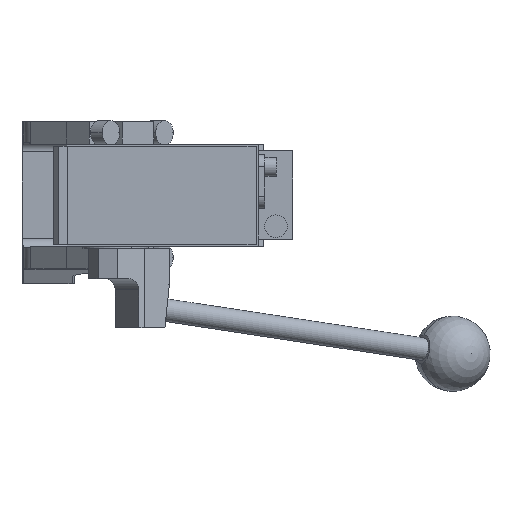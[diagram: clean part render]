
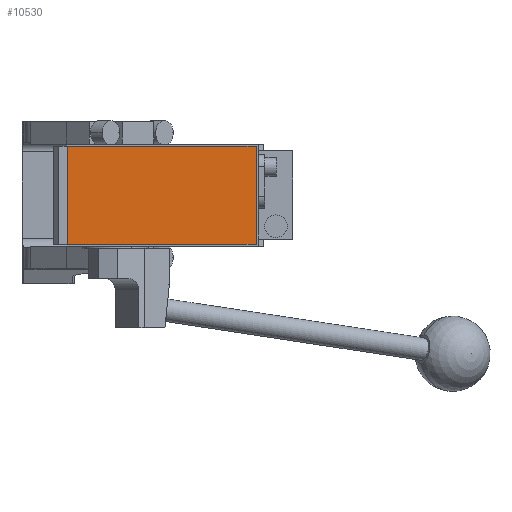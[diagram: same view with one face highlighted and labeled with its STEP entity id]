
A CAD part, front view. The second image highlights one B-rep face of the part: STEP entity #10530.
In plain terms, the highlighted planar face has unit normal (0, -1, 0).
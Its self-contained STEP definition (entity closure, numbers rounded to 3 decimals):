
#366 = EDGE_CURVE ( 'NONE', #13175, #14084, #5404, .T. ) ;
#641 = EDGE_LOOP ( 'NONE', ( #2456, #14191, #2196, #2305 ) ) ;
#1395 = EDGE_CURVE ( 'NONE', #14084, #1755, #7068, .T. ) ;
#1489 = EDGE_CURVE ( 'NONE', #1755, #7777, #14383, .T. ) ;
#1531 = FACE_OUTER_BOUND ( 'NONE', #641, .T. ) ;
#1755 = VERTEX_POINT ( 'NONE', #14147 ) ;
#2196 = ORIENTED_EDGE ( 'NONE', *, *, #1489, .T. ) ;
#2305 = ORIENTED_EDGE ( 'NONE', *, *, #8078, .T. ) ;
#2456 = ORIENTED_EDGE ( 'NONE', *, *, #366, .T. ) ;
#3568 = CARTESIAN_POINT ( 'NONE',  ( -19., -286.5, -26. ) ) ;
#3858 = DIRECTION ( 'NONE',  ( 0., 0., -1. ) ) ;
#4875 = DIRECTION ( 'NONE',  ( 0., 0., -1. ) ) ;
#5016 = CARTESIAN_POINT ( 'NONE',  ( 81., -286.5, 26. ) ) ;
#5083 = VECTOR ( 'NONE', #4875, 1000. ) ;
#5203 = CARTESIAN_POINT ( 'NONE',  ( 0., -286.5, 0. ) ) ;
#5404 = LINE ( 'NONE', #11220, #5083 ) ;
#5955 = LINE ( 'NONE', #10352, #7005 ) ;
#6509 = VECTOR ( 'NONE', #11735, 1000. ) ;
#7005 = VECTOR ( 'NONE', #14985, 1000. ) ;
#7068 = LINE ( 'NONE', #3568, #6509 ) ;
#7266 = DIRECTION ( 'NONE',  ( 0., -1., 0. ) ) ;
#7777 = VERTEX_POINT ( 'NONE', #9178 ) ;
#8078 = EDGE_CURVE ( 'NONE', #7777, #13175, #5955, .T. ) ;
#9178 = CARTESIAN_POINT ( 'NONE',  ( 81., -286.5, 26. ) ) ;
#10352 = CARTESIAN_POINT ( 'NONE',  ( -19., -286.5, 26. ) ) ;
#10530 = ADVANCED_FACE ( 'NONE', ( #1531 ), #14292, .T. ) ;
#11220 = CARTESIAN_POINT ( 'NONE',  ( -19., -286.5, 26. ) ) ;
#11380 = CARTESIAN_POINT ( 'NONE',  ( -19., -286.5, 26. ) ) ;
#11402 = CARTESIAN_POINT ( 'NONE',  ( -19., -286.5, -26. ) ) ;
#11735 = DIRECTION ( 'NONE',  ( 1., 0., 0. ) ) ;
#12101 = DIRECTION ( 'NONE',  ( 0., 0., 1. ) ) ;
#12545 = AXIS2_PLACEMENT_3D ( 'NONE', #5203, #7266, #3858 ) ;
#13175 = VERTEX_POINT ( 'NONE', #11380 ) ;
#14084 = VERTEX_POINT ( 'NONE', #11402 ) ;
#14147 = CARTESIAN_POINT ( 'NONE',  ( 81., -286.5, -26. ) ) ;
#14191 = ORIENTED_EDGE ( 'NONE', *, *, #1395, .T. ) ;
#14292 = PLANE ( 'NONE',  #12545 ) ;
#14383 = LINE ( 'NONE', #5016, #14948 ) ;
#14948 = VECTOR ( 'NONE', #12101, 1000. ) ;
#14985 = DIRECTION ( 'NONE',  ( -1., 0., 0. ) ) ;
